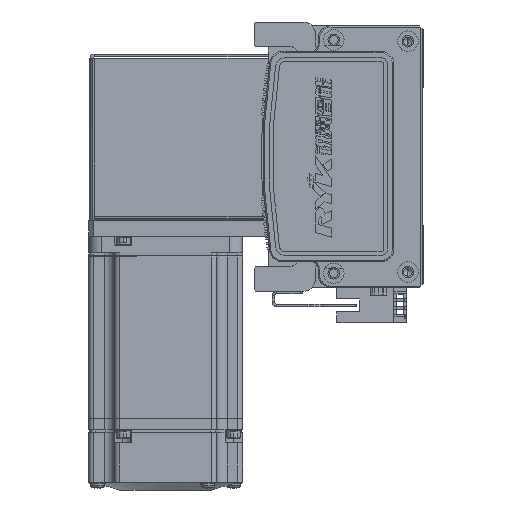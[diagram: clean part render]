
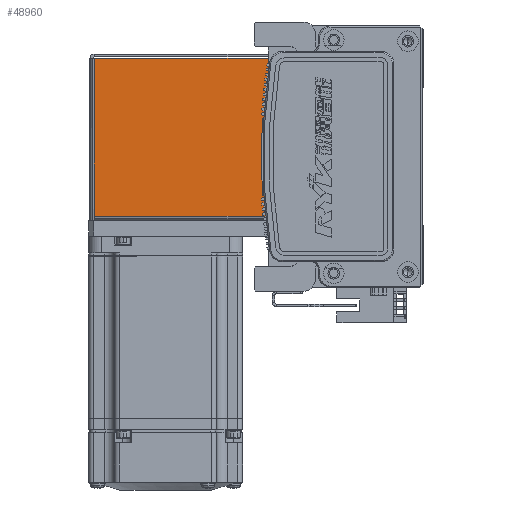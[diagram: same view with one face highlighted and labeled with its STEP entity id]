
A CAD part, left-side view. The second image highlights one B-rep face of the part: STEP entity #48960.
In plain terms, the highlighted planar face has unit normal (-1, 0, 0) as drawn and (0, 0, 1) by its records, which use the part's own axes.
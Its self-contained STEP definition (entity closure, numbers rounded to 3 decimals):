
#2561 = VERTEX_POINT ( 'NONE', #29239 ) ;
#4683 = EDGE_CURVE ( 'NONE', #38940, #39871, #62009, .T. ) ;
#5277 = CARTESIAN_POINT ( 'NONE',  ( 0., 0., 35. ) ) ;
#5624 = CARTESIAN_POINT ( 'NONE',  ( -32.5, 0.737, 35. ) ) ;
#9296 = CARTESIAN_POINT ( 'NONE',  ( 30.763, 68.5, 35. ) ) ;
#10820 = FACE_OUTER_BOUND ( 'NONE', #22025, .T. ) ;
#14702 = EDGE_CURVE ( 'NONE', #39871, #2561, #59292, .T. ) ;
#16284 = DIRECTION ( 'NONE',  ( -1., 0., 0. ) ) ;
#17743 = LINE ( 'NONE', #46739, #23665 ) ;
#19025 = ORIENTED_EDGE ( 'NONE', *, *, #14702, .F. ) ;
#21964 = AXIS2_PLACEMENT_3D ( 'NONE', #5277, #43683, #37995 ) ;
#22025 = EDGE_LOOP ( 'NONE', ( #47640, #51267, #19025, #27807 ) ) ;
#23665 = VECTOR ( 'NONE', #46499, 1000. ) ;
#25704 = CARTESIAN_POINT ( 'NONE',  ( 30.763, 0.737, 35. ) ) ;
#26270 = CARTESIAN_POINT ( 'NONE',  ( -30.793, 0.737, 35. ) ) ;
#27478 = PLANE ( 'NONE',  #21964 ) ;
#27807 = ORIENTED_EDGE ( 'NONE', *, *, #4683, .F. ) ;
#27831 = VECTOR ( 'NONE', #28944, 1000. ) ;
#28569 = CARTESIAN_POINT ( 'NONE',  ( 0., 68.5, 35. ) ) ;
#28807 = DIRECTION ( 'NONE',  ( -1., 0., 0. ) ) ;
#28944 = DIRECTION ( 'NONE',  ( 0., 1., 0. ) ) ;
#29239 = CARTESIAN_POINT ( 'NONE',  ( -30.793, 68.5, 35. ) ) ;
#37995 = DIRECTION ( 'NONE',  ( -1., 0., 0. ) ) ;
#38940 = VERTEX_POINT ( 'NONE', #25704 ) ;
#39871 = VERTEX_POINT ( 'NONE', #26270 ) ;
#42412 = LINE ( 'NONE', #28569, #70360 ) ;
#43557 = VERTEX_POINT ( 'NONE', #9296 ) ;
#43683 = DIRECTION ( 'NONE',  ( 0., 0., -1. ) ) ;
#45271 = EDGE_CURVE ( 'NONE', #38940, #43557, #17743, .T. ) ;
#46499 = DIRECTION ( 'NONE',  ( 0., 1., 0. ) ) ;
#46739 = CARTESIAN_POINT ( 'NONE',  ( 30.763, 0.737, 35. ) ) ;
#47640 = ORIENTED_EDGE ( 'NONE', *, *, #45271, .T. ) ;
#48460 = VECTOR ( 'NONE', #16284, 1000. ) ;
#48960 = ADVANCED_FACE ( 'NONE', ( #10820 ), #27478, .F. ) ;
#51267 = ORIENTED_EDGE ( 'NONE', *, *, #53894, .T. ) ;
#53894 = EDGE_CURVE ( 'NONE', #43557, #2561, #42412, .T. ) ;
#59292 = LINE ( 'NONE', #61511, #27831 ) ;
#61511 = CARTESIAN_POINT ( 'NONE',  ( -30.793, 0., 35. ) ) ;
#62009 = LINE ( 'NONE', #5624, #48460 ) ;
#70360 = VECTOR ( 'NONE', #28807, 1000. ) ;
